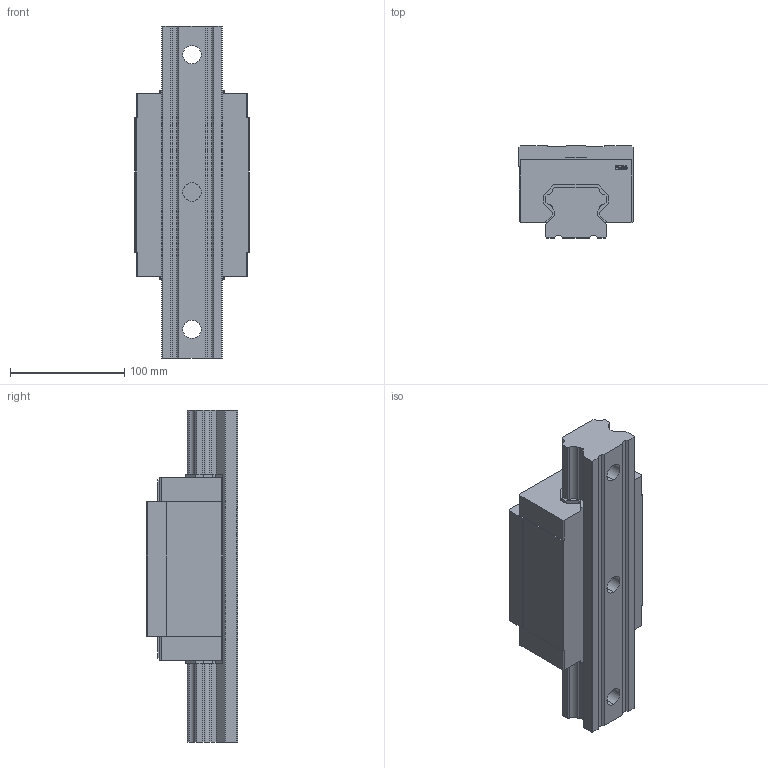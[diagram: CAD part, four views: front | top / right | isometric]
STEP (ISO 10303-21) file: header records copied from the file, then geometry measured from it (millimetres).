
FILE_DESCRIPTION (( 'STEP AP214' ), '1' );
FILE_NAME ('7.1022 Lineaarikelkka HTH55CA.STEP', '2026-03-11T06:40:57', ( '' ), ( '' ), 'SwSTEP 2.0', 'SolidWorks 2025', '' );
FILE_SCHEMA (( 'AUTOMOTIVE_DESIGN' ));
Length unit declared in the file: millimetre
Products named in the file (4): HG_BLOCK_HGHCA_ANY; 7.1022 Lineaarikelkka HTH55CA; HG_BLOCK_SS_ANY_ASM; HG_RAIL0_R_ANY
Assembly tree (3 placements, depth 3):
  7.1022 Lineaarikelkka HTH55CA
    HG_BLOCK_SS_ANY_ASM
      HG_BLOCK_HGHCA_ANY
    HG_RAIL0_R_ANY
Bounding box: 100 x 80 x 290 mm (x, y, z)
Volume: 1333865.1 mm3; surface area: 148361.5 mm2
Topology: 2 solids, 2 shells, 246 faces, 684 edges, 452 vertices
Faces by surface type: plane 181, cylinder 32, bspline 25, cone 8
Entity records: 12624 total; most frequent: CARTESIAN_POINT 3602, ORIENTED_EDGE 1352, DIRECTION 1154, EDGE_CURVE 676, LINE 554, VECTOR 554, VERTEX_POINT 452, AXIS2_PLACEMENT_3D 300
